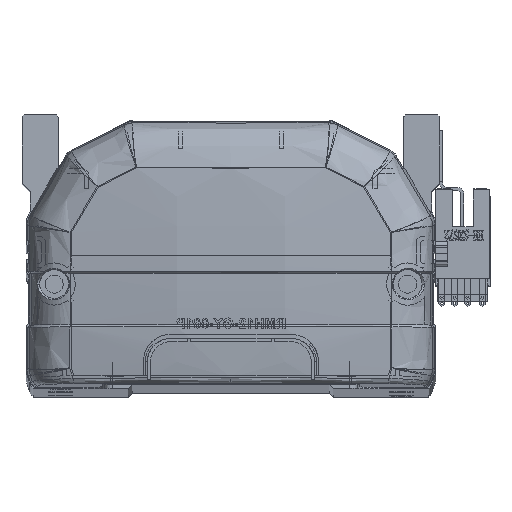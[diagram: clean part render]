
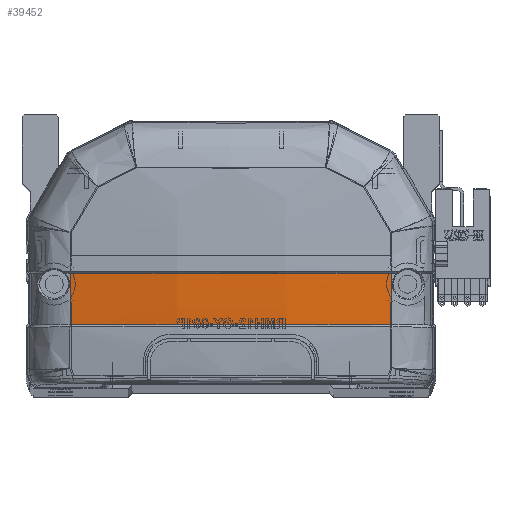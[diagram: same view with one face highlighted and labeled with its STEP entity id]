
A CAD part, top view. The second image highlights one B-rep face of the part: STEP entity #39452.
In plain terms, the highlighted free-form (B-spline) face has degree [3, 3] with [4, 4] control points.
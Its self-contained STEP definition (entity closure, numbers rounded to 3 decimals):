
#531 = EDGE_CURVE ( 'NONE', #12822, #4008, #48110, .T. ) ;
#3589 = CARTESIAN_POINT ( 'NONE',  ( -40.461, 28.832, -6.296 ) ) ;
#4008 = VERTEX_POINT ( 'NONE', #32939 ) ;
#4809 = CARTESIAN_POINT ( 'NONE',  ( -39.985, 15.83, -5.879 ) ) ;
#7021 = CARTESIAN_POINT ( 'NONE',  ( 40.461, 20.111, -6.066 ) ) ;
#7077 = B_SPLINE_CURVE_WITH_KNOTS ( 'NONE', 3,
 ( #37844, #50951, #56701, #43361, #52564, #52167, #10012, #29024, #29430, #57482 ),
 .UNSPECIFIED., .F., .F.,
 ( 4, 2, 2, 2, 4 ),
 ( 0., 0.04, 0.06, 0.07, 0.08 ),
 .UNSPECIFIED. ) ;
#7280 = CARTESIAN_POINT ( 'NONE',  ( 26.749, 28.706, -8.432 ) ) ;
#8765 = ORIENTED_EDGE ( 'NONE', *, *, #23611, .F. ) ;
#9939 = EDGE_CURVE ( 'NONE', #47196, #4008, #7077, .T. ) ;
#10012 = CARTESIAN_POINT ( 'NONE',  ( -26.721, 15.83, -7.624 ) ) ;
#12822 = VERTEX_POINT ( 'NONE', #28615 ) ;
#14283 = CARTESIAN_POINT ( 'NONE',  ( -39.966, 24.412, -6.306 ) ) ;
#16732 = CARTESIAN_POINT ( 'NONE',  ( -13.373, 28.707, -9.468 ) ) ;
#17516 = CARTESIAN_POINT ( 'NONE',  ( 40.461, 24.47, -6.231 ) ) ;
#20568 = CARTESIAN_POINT ( 'NONE',  ( 13.598, 19.918, -10.302 ) ) ;
#22236 = CARTESIAN_POINT ( 'NONE',  ( 40.461, 28.832, -6.296 ) ) ;
#23611 = EDGE_CURVE ( 'NONE', #12822, #42095, #53796, .T. ) ;
#25270 = CARTESIAN_POINT ( 'NONE',  ( -40.461, 20.111, -6.066 ) ) ;
#28615 = CARTESIAN_POINT ( 'NONE',  ( -39.963, 28.706, -6.372 ) ) ;
#28963 = CARTESIAN_POINT ( 'NONE',  ( -39.973, 20.118, -6.142 ) ) ;
#29024 = CARTESIAN_POINT ( 'NONE',  ( -33.365, 15.83, -6.848 ) ) ;
#29430 = CARTESIAN_POINT ( 'NONE',  ( -36.679, 15.83, -6.395 ) ) ;
#30421 = CARTESIAN_POINT ( 'NONE',  ( -39.963, 28.706, -6.372 ) ) ;
#31437 = CARTESIAN_POINT ( 'NONE',  ( -13.598, 15.499, -10.032 ) ) ;
#31691 = CARTESIAN_POINT ( 'NONE',  ( 39.963, 28.706, -6.372 ) ) ;
#31917 = ORIENTED_EDGE ( 'NONE', *, *, #60092, .T. ) ;
#32872 = CARTESIAN_POINT ( 'NONE',  ( -39.963, 28.706, -6.372 ) ) ;
#32939 = CARTESIAN_POINT ( 'NONE',  ( -39.985, 15.83, -5.879 ) ) ;
#34481 = CARTESIAN_POINT ( 'NONE',  ( -13.598, 28.769, -10.535 ) ) ;
#34884 = CARTESIAN_POINT ( 'NONE',  ( 13.598, 15.499, -10.032 ) ) ;
#34926 = CARTESIAN_POINT ( 'NONE',  ( -26.748, 28.706, -8.432 ) ) ;
#35524 = CARTESIAN_POINT ( 'NONE',  ( 39.985, 15.83, -5.879 ) ) ;
#35541 = CARTESIAN_POINT ( 'NONE',  ( 39.963, 28.706, -6.372 ) ) ;
#35789 = CARTESIAN_POINT ( 'NONE',  ( 39.985, 15.83, -5.879 ) ) ;
#36816 = ORIENTED_EDGE ( 'NONE', *, *, #9939, .F. ) ;
#37844 = CARTESIAN_POINT ( 'NONE',  ( 39.985, 15.83, -5.879 ) ) ;
#39452 = ADVANCED_FACE ( 'NONE', ( #53374 ), #48028, .F. ) ;
#39805 = CARTESIAN_POINT ( 'NONE',  ( 40.461, 15.757, -5.8 ) ) ;
#39851 = CARTESIAN_POINT ( 'NONE',  ( 13.375, 28.707, -9.468 ) ) ;
#40137 = ORIENTED_EDGE ( 'NONE', *, *, #531, .T. ) ;
#40465 = CARTESIAN_POINT ( 'NONE',  ( 39.963, 28.706, -6.372 ) ) ;
#42095 = VERTEX_POINT ( 'NONE', #40465 ) ;
#43361 = CARTESIAN_POINT ( 'NONE',  ( -6.692, 15.83, -8.984 ) ) ;
#44114 = CARTESIAN_POINT ( 'NONE',  ( -40.461, 15.757, -5.8 ) ) ;
#45428 = CARTESIAN_POINT ( 'NONE',  ( 39.973, 20.12, -6.142 ) ) ;
#46224 = CARTESIAN_POINT ( 'NONE',  ( 39.966, 24.413, -6.306 ) ) ;
#47196 = VERTEX_POINT ( 'NONE', #35524 ) ;
#48028 =( BOUNDED_SURFACE ( )  B_SPLINE_SURFACE ( 3, 3, ( 
 ( #39805, #7021, #17516, #22236 ),
 ( #34884, #20568, #53919, #58628 ),
 ( #31437, #54979, #59732, #34481 ),
 ( #44114, #25270, #58014, #3589 ) ),
 .UNSPECIFIED., .F., .F., .T. ) 
 B_SPLINE_SURFACE_WITH_KNOTS ( ( 4, 4 ),
 ( 4, 4 ),
 ( 0., 1. ),
 ( 0., 1. ),
 .UNSPECIFIED. ) 
 GEOMETRIC_REPRESENTATION_ITEM ( )  RATIONAL_B_SPLINE_SURFACE ( (
 ( 1., 1., 1., 1.),
 ( 0.992, 0.992, 0.992, 0.992),
 ( 0.992, 0.992, 0.992, 0.992),
 ( 1., 1., 1., 1.) ) ) 
 REPRESENTATION_ITEM ( '' )  SURFACE ( )  );
#48110 = B_SPLINE_CURVE_WITH_KNOTS ( 'NONE', 3,
 ( #32872, #14283, #28963, #4809 ),
 .UNSPECIFIED., .F., .F.,
 ( 4, 4 ),
 ( 0., 1. ),
 .UNSPECIFIED. ) ;
#50951 = CARTESIAN_POINT ( 'NONE',  ( 26.761, 15.83, -7.945 ) ) ;
#52167 = CARTESIAN_POINT ( 'NONE',  ( -23.389, 15.83, -7.947 ) ) ;
#52564 = CARTESIAN_POINT ( 'NONE',  ( -13.384, 15.83, -8.724 ) ) ;
#52747 = EDGE_LOOP ( 'NONE', ( #31917, #8765, #40137, #36816 ) ) ;
#53374 = FACE_OUTER_BOUND ( 'NONE', #52747, .T. ) ;
#53796 = B_SPLINE_CURVE_WITH_KNOTS ( 'NONE', 3,
 ( #30421, #34926, #16732, #39851, #7280, #35541 ),
 .UNSPECIFIED., .F., .F.,
 ( 4, 2, 4 ),
 ( 0., 0.5, 1. ),
 .UNSPECIFIED. ) ;
#53919 = CARTESIAN_POINT ( 'NONE',  ( 13.598, 24.342, -10.47 ) ) ;
#54979 = CARTESIAN_POINT ( 'NONE',  ( -13.598, 19.918, -10.302 ) ) ;
#56701 = CARTESIAN_POINT ( 'NONE',  ( 13.38, 15.83, -8.984 ) ) ;
#57482 = CARTESIAN_POINT ( 'NONE',  ( -39.985, 15.83, -5.879 ) ) ;
#58014 = CARTESIAN_POINT ( 'NONE',  ( -40.461, 24.47, -6.231 ) ) ;
#58044 = B_SPLINE_CURVE_WITH_KNOTS ( 'NONE', 3,
 ( #35789, #45428, #46224, #31691 ),
 .UNSPECIFIED., .F., .F.,
 ( 4, 4 ),
 ( 0., 1. ),
 .UNSPECIFIED. ) ;
#58628 = CARTESIAN_POINT ( 'NONE',  ( 13.598, 28.769, -10.535 ) ) ;
#59732 = CARTESIAN_POINT ( 'NONE',  ( -13.598, 24.342, -10.47 ) ) ;
#60092 = EDGE_CURVE ( 'NONE', #47196, #42095, #58044, .T. ) ;
